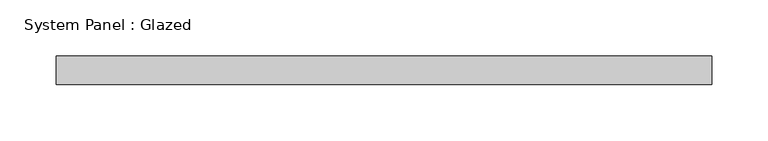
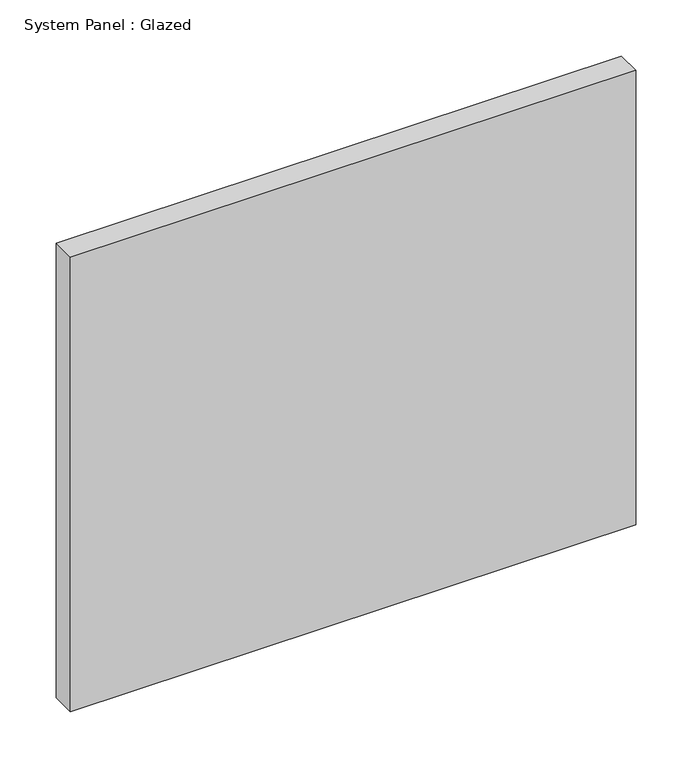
"""IFC4 building model written with IfcOpenShell, lengths in millimetres: plate geometry, System Panel : Glazed."""

from ifc_helpers import new_model, si_unit, origin, origin_with_axes, place, context, project, spatial, polyline, outline, extrude, source, transform, mapped, element, save


def system_panel_glazed_48f7cdc0(model_context):
    return source(origin(), model_context, "Body", "SweptSolid", [
        extrude(outline(polyline([(291.3212769, -12.7), (-291.3212769, -12.7), (-291.3212769, 12.7), (291.3212769, 12.7), (291.3212769, -12.7)])), origin_with_axes(), (0.0, 0.0, 1.0), 495.3),
    ])


if __name__ == "__main__":
    model = new_model("IFC4")
    model_context = context("Model", 3, world=origin())
    ifc_project = project(units=[si_unit("LENGTHUNIT", "METRE", prefix="MILLI")], contexts=[model_context])
    site = spatial("IfcSite", under=ifc_project)
    building = spatial("IfcBuilding", under=site)
    placement = place(None, origin())
    system_panel_glazed_shape = system_panel_glazed_48f7cdc0(model_context)
    element("IfcPlate", 1, ObjectType="System Panel : Glazed", at=placement, inside=building, context=model_context, shape_type="MappedRepresentation", body=[
        mapped(system_panel_glazed_shape, transform((0.0, 0.0, 0.0), x_axis=(1.0, 0.0, 0.0), y_axis=(0.0, 1.0, 0.0), z_axis=(0.0, 0.0, 1.0))),
    ])
    save(model, "model.ifc")
